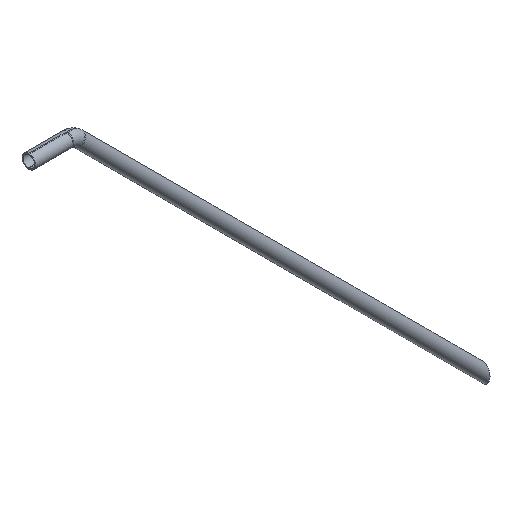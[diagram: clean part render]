
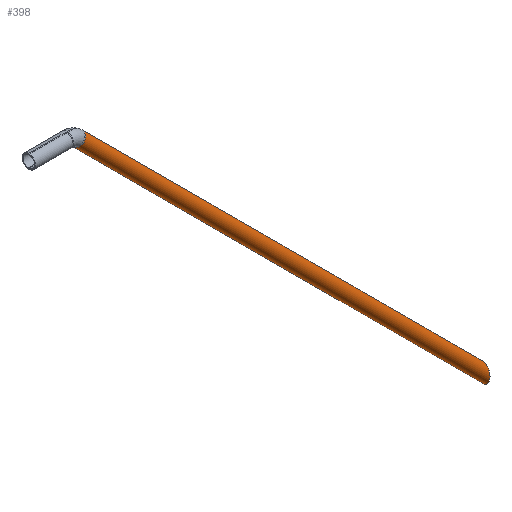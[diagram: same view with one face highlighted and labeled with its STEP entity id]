
A CAD part, isometric view. The second image highlights one B-rep face of the part: STEP entity #398.
In plain terms, the highlighted cylindrical face has radius 13.45 mm (diameter 26.9 mm), a partial arc.
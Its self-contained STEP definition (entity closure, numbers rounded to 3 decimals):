
#12 = FACE_OUTER_BOUND ( 'NONE', #400, .T. ) ;
#21 = DIRECTION ( 'NONE',  ( 0.707, 0., -0.707 ) ) ;
#36 = CARTESIAN_POINT ( 'NONE',  ( 6226.494, 2915., 5767.356 ) ) ;
#38 = CARTESIAN_POINT ( 'NONE',  ( 6236.004, 2915., 5776.867 ) ) ;
#41 = EDGE_CURVE ( 'NONE', #199, #216, #408, .T. ) ;
#67 = CARTESIAN_POINT ( 'NONE',  ( 7032.542, 2888.1, 4980.33 ) ) ;
#71 = EDGE_CURVE ( 'NONE', #295, #199, #285, .T. ) ;
#79 = ORIENTED_EDGE ( 'NONE', *, *, #71, .T. ) ;
#91 = LINE ( 'NONE', #180, #404 ) ;
#103 = AXIS2_PLACEMENT_3D ( 'NONE', #375, #316, #151 ) ;
#122 = EDGE_CURVE ( 'NONE', #295, #156, #91, .T. ) ;
#127 = AXIS2_PLACEMENT_3D ( 'NONE', #36, #340, #260 ) ;
#146 = DIRECTION ( 'NONE',  ( 0.707, 0., -0.707 ) ) ;
#151 = DIRECTION ( 'NONE',  ( -0.707, 0., -0.707 ) ) ;
#156 = VERTEX_POINT ( 'NONE', #208 ) ;
#160 = CARTESIAN_POINT ( 'NONE',  ( 7032.542, 2888.1, 4942.287 ) ) ;
#180 = CARTESIAN_POINT ( 'NONE',  ( 6236.004, 2915., 5776.867 ) ) ;
#187 = CARTESIAN_POINT ( 'NONE',  ( 7032.542, 2915., 4980.33 ) ) ;
#199 = VERTEX_POINT ( 'NONE', #418 ) ;
#208 = CARTESIAN_POINT ( 'NONE',  ( 7032.542, 2915., 4980.33 ) ) ;
#216 = VERTEX_POINT ( 'NONE', #254 ) ;
#226 = EDGE_CURVE ( 'NONE', #216, #156, #283, .T. ) ;
#232 = CYLINDRICAL_SURFACE ( 'NONE', #127, 13.45 ) ;
#241 = VECTOR ( 'NONE', #21, 1000. ) ;
#254 = CARTESIAN_POINT ( 'NONE',  ( 7032.542, 2915., 4942.287 ) ) ;
#260 = DIRECTION ( 'NONE',  ( -0.707, 0., -0.707 ) ) ;
#283 =( BOUNDED_CURVE ( )  B_SPLINE_CURVE ( 3, ( #383, #160, #67, #187 ),
 .UNSPECIFIED., .F., .F. ) 
 B_SPLINE_CURVE_WITH_KNOTS ( ( 4, 4 ),
 ( 0., 3.142 ),
 .UNSPECIFIED. ) 
 CURVE ( )  GEOMETRIC_REPRESENTATION_ITEM ( )  RATIONAL_B_SPLINE_CURVE ( ( 1., 0.333, 0.333, 1. ) ) 
 REPRESENTATION_ITEM ( '' )  );
#285 = CIRCLE ( 'NONE', #103, 13.45 ) ;
#295 = VERTEX_POINT ( 'NONE', #38 ) ;
#316 = DIRECTION ( 'NONE',  ( 0.707, 0., -0.707 ) ) ;
#340 = DIRECTION ( 'NONE',  ( 0.707, 0., -0.707 ) ) ;
#348 = CARTESIAN_POINT ( 'NONE',  ( 6216.983, 2915., 5757.846 ) ) ;
#362 = ORIENTED_EDGE ( 'NONE', *, *, #122, .F. ) ;
#375 = CARTESIAN_POINT ( 'NONE',  ( 6226.494, 2915., 5767.356 ) ) ;
#383 = CARTESIAN_POINT ( 'NONE',  ( 7032.542, 2915., 4942.287 ) ) ;
#387 = ORIENTED_EDGE ( 'NONE', *, *, #226, .T. ) ;
#395 = ORIENTED_EDGE ( 'NONE', *, *, #41, .T. ) ;
#398 = ADVANCED_FACE ( 'NONE', ( #12 ), #232, .T. ) ;
#400 = EDGE_LOOP ( 'NONE', ( #362, #79, #395, #387 ) ) ;
#404 = VECTOR ( 'NONE', #146, 1000. ) ;
#408 = LINE ( 'NONE', #348, #241 ) ;
#418 = CARTESIAN_POINT ( 'NONE',  ( 6216.983, 2915., 5757.846 ) ) ;
